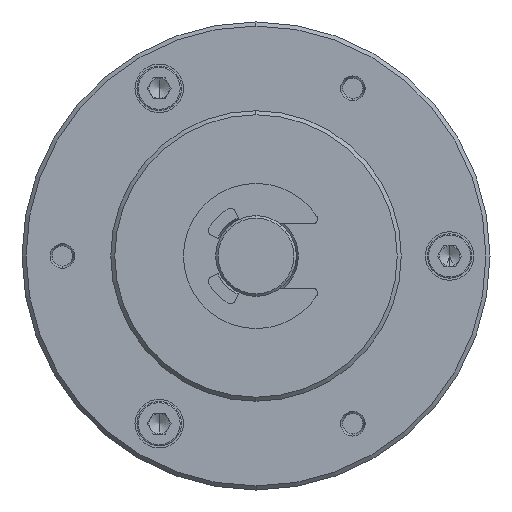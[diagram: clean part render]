
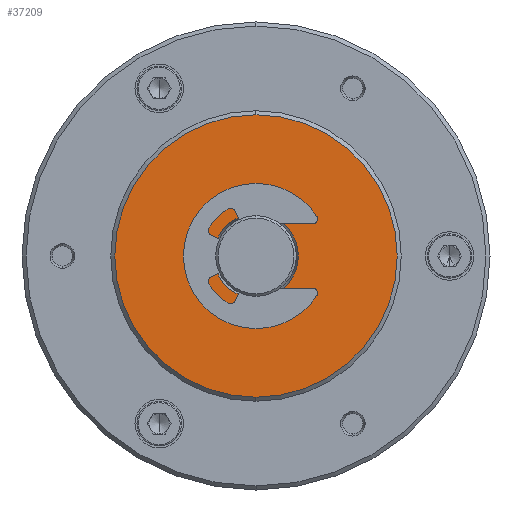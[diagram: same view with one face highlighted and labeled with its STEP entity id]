
A CAD part, left-side view. The second image highlights one B-rep face of the part: STEP entity #37209.
In plain terms, the highlighted planar face has unit normal (-1, 0, 0).
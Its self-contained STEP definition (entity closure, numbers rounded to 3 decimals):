
#31 = EDGE_LOOP ( 'NONE', ( #71555, #31913 ) ) ;
#2839 = CARTESIAN_POINT ( 'NONE',  ( 25.576, 25.269, 28.414 ) ) ;
#5603 = CARTESIAN_POINT ( 'NONE',  ( 25.576, 25.269, 28.414 ) ) ;
#6641 = AXIS2_PLACEMENT_3D ( 'NONE', #9399, #65862, #17505 ) ;
#8566 = FACE_OUTER_BOUND ( 'NONE', #31, .T. ) ;
#9399 = CARTESIAN_POINT ( 'NONE',  ( 25.576, 25.269, 28.414 ) ) ;
#10542 = VERTEX_POINT ( 'NONE', #67661 ) ;
#10935 = DIRECTION ( 'NONE',  ( 0., 0., 1. ) ) ;
#13716 = DIRECTION ( 'NONE',  ( 0., 0., 1. ) ) ;
#17505 = DIRECTION ( 'NONE',  ( 0., 0., 1. ) ) ;
#22726 = EDGE_CURVE ( 'NONE', #10542, #44204, #73989, .T. ) ;
#27656 = CARTESIAN_POINT ( 'NONE',  ( 25.576, 25.269, 33.664 ) ) ;
#31913 = ORIENTED_EDGE ( 'NONE', *, *, #94691, .T. ) ;
#32728 = CARTESIAN_POINT ( 'NONE',  ( 25.576, 25.269, 28.414 ) ) ;
#33356 = DIRECTION ( 'NONE',  ( 1., 0., 0. ) ) ;
#37209 = ADVANCED_FACE ( 'NONE', ( #91949, #8566 ), #97719, .F. ) ;
#37473 = VERTEX_POINT ( 'NONE', #69598 ) ;
#40437 = CIRCLE ( 'NONE', #6641, 5.25 ) ;
#40858 = DIRECTION ( 'NONE',  ( 0., 0., 1. ) ) ;
#42907 = CIRCLE ( 'NONE', #64251, 17.5 ) ;
#44204 = VERTEX_POINT ( 'NONE', #27656 ) ;
#46805 = ORIENTED_EDGE ( 'NONE', *, *, #75970, .F. ) ;
#48360 = EDGE_CURVE ( 'NONE', #61980, #37473, #42907, .T. ) ;
#51664 = AXIS2_PLACEMENT_3D ( 'NONE', #2839, #59235, #10935 ) ;
#58314 = AXIS2_PLACEMENT_3D ( 'NONE', #32728, #89286, #40858 ) ;
#59235 = DIRECTION ( 'NONE',  ( -1., 0., 0. ) ) ;
#61980 = VERTEX_POINT ( 'NONE', #104220 ) ;
#62010 = DIRECTION ( 'NONE',  ( -1., 0., 0. ) ) ;
#64251 = AXIS2_PLACEMENT_3D ( 'NONE', #5603, #62010, #13716 ) ;
#65862 = DIRECTION ( 'NONE',  ( -1., 0., 0. ) ) ;
#66568 = AXIS2_PLACEMENT_3D ( 'NONE', #81768, #33356, #89932 ) ;
#67661 = CARTESIAN_POINT ( 'NONE',  ( 25.576, 25.269, 23.164 ) ) ;
#69598 = CARTESIAN_POINT ( 'NONE',  ( 25.576, 25.269, 45.914 ) ) ;
#71425 = ORIENTED_EDGE ( 'NONE', *, *, #22726, .F. ) ;
#71555 = ORIENTED_EDGE ( 'NONE', *, *, #48360, .T. ) ;
#73989 = CIRCLE ( 'NONE', #58314, 5.25 ) ;
#75970 = EDGE_CURVE ( 'NONE', #44204, #10542, #40437, .T. ) ;
#81768 = CARTESIAN_POINT ( 'NONE',  ( 25.576, 30.519, 28.414 ) ) ;
#89286 = DIRECTION ( 'NONE',  ( -1., 0., 0. ) ) ;
#89932 = DIRECTION ( 'NONE',  ( 0., 0., -1. ) ) ;
#91949 = FACE_BOUND ( 'NONE', #93672, .T. ) ;
#93672 = EDGE_LOOP ( 'NONE', ( #46805, #71425 ) ) ;
#94691 = EDGE_CURVE ( 'NONE', #37473, #61980, #99610, .T. ) ;
#97719 = PLANE ( 'NONE',  #66568 ) ;
#99610 = CIRCLE ( 'NONE', #51664, 17.5 ) ;
#104220 = CARTESIAN_POINT ( 'NONE',  ( 25.576, 25.269, 10.914 ) ) ;
